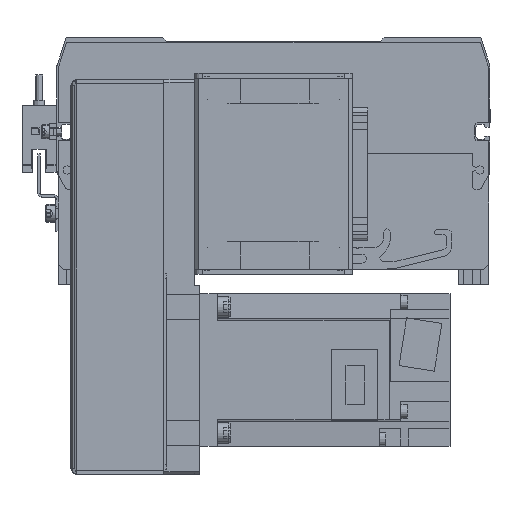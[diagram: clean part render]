
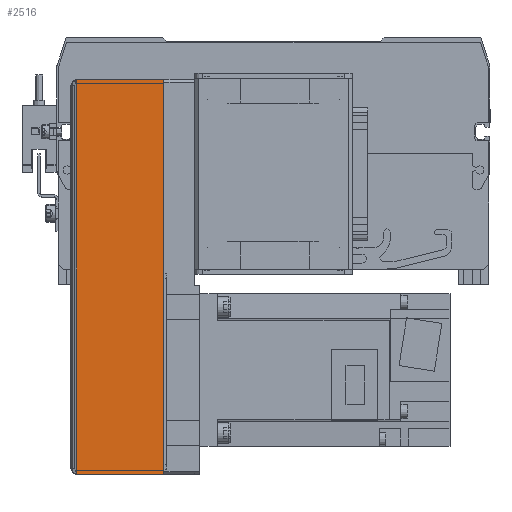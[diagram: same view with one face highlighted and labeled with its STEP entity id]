
A CAD part, front view. The second image highlights one B-rep face of the part: STEP entity #2516.
In plain terms, the highlighted planar face has unit normal (0, -1, 0) as drawn and (0, 1, 0) by its records, which use the part's own axes.
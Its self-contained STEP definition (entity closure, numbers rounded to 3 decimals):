
#1784 = VERTEX_POINT ( 'NONE', #17024 ) ;
#2516 = ADVANCED_FACE ( 'NONE', ( #35593 ), #17213, .F. ) ;
#3764 = VERTEX_POINT ( 'NONE', #10412 ) ;
#5435 = ORIENTED_EDGE ( 'NONE', *, *, #34318, .F. ) ;
#5623 = ORIENTED_EDGE ( 'NONE', *, *, #43188, .F. ) ;
#6630 = VECTOR ( 'NONE', #23724, 1000. ) ;
#8548 = CARTESIAN_POINT ( 'NONE',  ( 0.737, 59.837, -134.327 ) ) ;
#9587 = VECTOR ( 'NONE', #19141, 1000. ) ;
#9701 = EDGE_LOOP ( 'NONE', ( #5435, #24922, #5623, #46131 ) ) ;
#9884 = CARTESIAN_POINT ( 'NONE',  ( 0.737, 59.837, -134.327 ) ) ;
#10412 = CARTESIAN_POINT ( 'NONE',  ( 0.737, 59.837, -134.327 ) ) ;
#11499 = VERTEX_POINT ( 'NONE', #29850 ) ;
#11565 = LINE ( 'NONE', #34459, #27136 ) ;
#13691 = VERTEX_POINT ( 'NONE', #17684 ) ;
#16124 = LINE ( 'NONE', #9884, #6630 ) ;
#16754 = DIRECTION ( 'NONE',  ( 0., -1., 0. ) ) ;
#17024 = CARTESIAN_POINT ( 'NONE',  ( 35., 59.837, 20.673 ) ) ;
#17213 = PLANE ( 'NONE',  #30628 ) ;
#17684 = CARTESIAN_POINT ( 'NONE',  ( 35., 59.837, -134.327 ) ) ;
#19141 = DIRECTION ( 'NONE',  ( 1., 0., 0. ) ) ;
#23724 = DIRECTION ( 'NONE',  ( 0., 0., -1. ) ) ;
#24539 = EDGE_CURVE ( 'NONE', #11499, #1784, #11565, .T. ) ;
#24628 = LINE ( 'NONE', #8548, #9587 ) ;
#24922 = ORIENTED_EDGE ( 'NONE', *, *, #24539, .T. ) ;
#27136 = VECTOR ( 'NONE', #41590, 1000. ) ;
#29850 = CARTESIAN_POINT ( 'NONE',  ( 0.737, 59.837, 20.673 ) ) ;
#30628 = AXIS2_PLACEMENT_3D ( 'NONE', #31580, #16754, #42131 ) ;
#31580 = CARTESIAN_POINT ( 'NONE',  ( 0., 59.837, 0. ) ) ;
#32611 = EDGE_CURVE ( 'NONE', #3764, #13691, #24628, .T. ) ;
#34318 = EDGE_CURVE ( 'NONE', #11499, #3764, #16124, .T. ) ;
#34459 = CARTESIAN_POINT ( 'NONE',  ( 0.737, 59.837, 20.673 ) ) ;
#35546 = DIRECTION ( 'NONE',  ( 0., 0., 1. ) ) ;
#35593 = FACE_OUTER_BOUND ( 'NONE', #9701, .T. ) ;
#41590 = DIRECTION ( 'NONE',  ( 1., 0., 0. ) ) ;
#41875 = LINE ( 'NONE', #45908, #45744 ) ;
#42131 = DIRECTION ( 'NONE',  ( 1., 0., 0. ) ) ;
#43188 = EDGE_CURVE ( 'NONE', #13691, #1784, #41875, .T. ) ;
#45744 = VECTOR ( 'NONE', #35546, 1000. ) ;
#45908 = CARTESIAN_POINT ( 'NONE',  ( 35., 59.837, -134.327 ) ) ;
#46131 = ORIENTED_EDGE ( 'NONE', *, *, #32611, .F. ) ;
